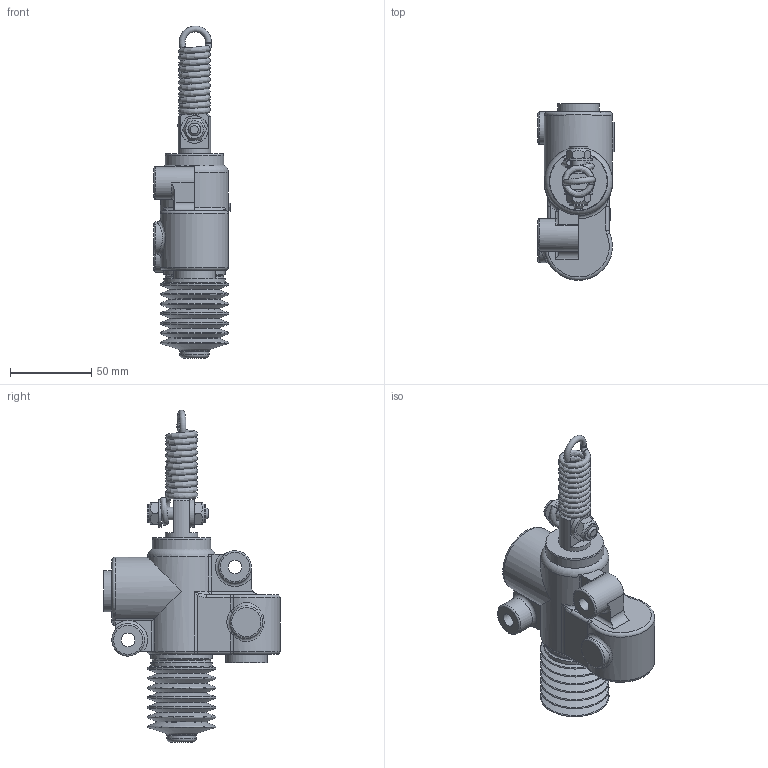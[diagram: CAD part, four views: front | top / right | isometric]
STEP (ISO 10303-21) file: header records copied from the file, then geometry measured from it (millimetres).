
FILE_DESCRIPTION((''),'2;1');
FILE_NAME('G:\HV_HYDRAULIC\AZIENDA_HV_HYDRAULIC\ARCHIVIO_DISEGNI\5_PRODOTTI_FINITI\3_VALVOLE\6200_VFC\6200.0013_VFC_1-2_G_nc_(HV)\6200.0013.stp','2024-09-27T13:29:21',('christian.scardovi'),(''),'Autodesk Inventor 2013','Autodesk Inventor 2013','');
FILE_SCHEMA(('AUTOMOTIVE_DESIGN { 1 0 10303 214 1 1 1 1 }'));
Length unit declared in the file: millimetre
Products named in the file (1): 6200.0013
Bounding box: 47 x 108.92 x 204.88 mm (x, y, z)
Volume: 279381.9 mm3; surface area: 49698.3 mm2
Topology: 1 solids, 1 shells, 249 faces, 602 edges, 372 vertices
Faces by surface type: plane 86, cylinder 45, bspline 40, torus 39, cone 38, sphere 1
Full cylindrical faces by diameter (mm): 3.7 x1, 6.647 x1, 8 x1, 8.5 x3, 11.05 x2, 14.5 x2, 17 x2, 18 x1, 20 x4, 25.5 x2, 30 x2, 36 x2, 38 x1, 38.004 x1
Entity records: 9316 total; most frequent: CARTESIAN_POINT 3879, ORIENTED_EDGE 1018, DIRECTION 981, EDGE_CURVE 509, AXIS2_PLACEMENT_3D 402, VERTEX_POINT 356, EDGE_LOOP 353, STYLED_ITEM 250
